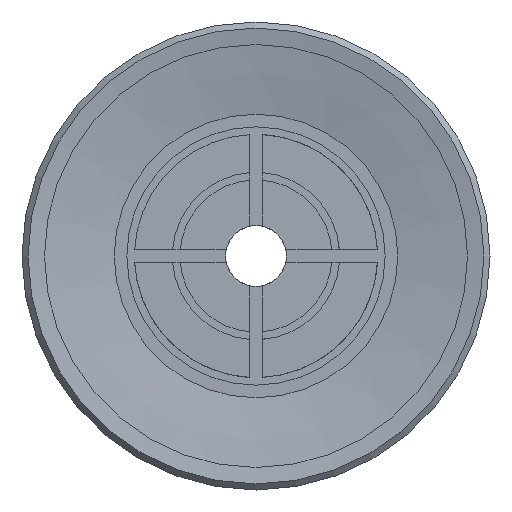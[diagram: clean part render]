
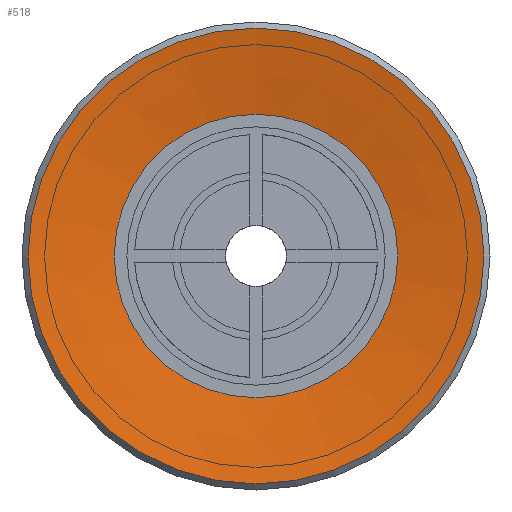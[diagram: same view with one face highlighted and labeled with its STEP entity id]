
A CAD part, front view. The second image highlights one B-rep face of the part: STEP entity #518.
In plain terms, the highlighted conical face has half-angle 80 degrees and reference radius 4.664 mm.
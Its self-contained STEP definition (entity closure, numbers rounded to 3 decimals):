
#518=ADVANCED_FACE('',(#823,#824),#825,.F.);
#823=FACE_BOUND('',#1158,.T.);
#824=FACE_OUTER_BOUND('',#1159,.T.);
#825=CONICAL_SURFACE('',#1160,4.664,1.396);
#1158=EDGE_LOOP('',(#2073));
#1159=EDGE_LOOP('',(#2074));
#1160=AXIS2_PLACEMENT_3D('',#2075,#2076,#2077);
#2073=ORIENTED_EDGE('',*,*,#2469,.F.);
#2074=ORIENTED_EDGE('',*,*,#2438,.T.);
#2075=CARTESIAN_POINT('',(0.0,0.5,0.0));
#2076=DIRECTION('',(-0.0,-1.0,0.));
#2077=DIRECTION('',(0.0,0.,-1.0));
#2438=EDGE_CURVE('',#2889,#2889,#2890,.T.);
#2469=EDGE_CURVE('',#2936,#2936,#2937,.T.);
#2889=VERTEX_POINT('',#3777);
#2890=CIRCLE('',#3778,7.5);
#2936=VERTEX_POINT('',#3875);
#2937=CIRCLE('',#3876,4.664);
#3777=CARTESIAN_POINT('',(0.0,0.,-7.5));
#3778=AXIS2_PLACEMENT_3D('',#4261,#4262,#4263);
#3875=CARTESIAN_POINT('',(0.0,0.5,-4.664));
#3876=AXIS2_PLACEMENT_3D('',#4298,#4299,#4300);
#4261=CARTESIAN_POINT('',(0.0,0.0,0.0));
#4262=DIRECTION('',(0.0,-1.0,0.));
#4263=DIRECTION('',(0.0,0.,-1.0));
#4298=CARTESIAN_POINT('',(0.0,0.5,0.0));
#4299=DIRECTION('',(0.0,-1.0,0.));
#4300=DIRECTION('',(0.0,0.,-1.0));
